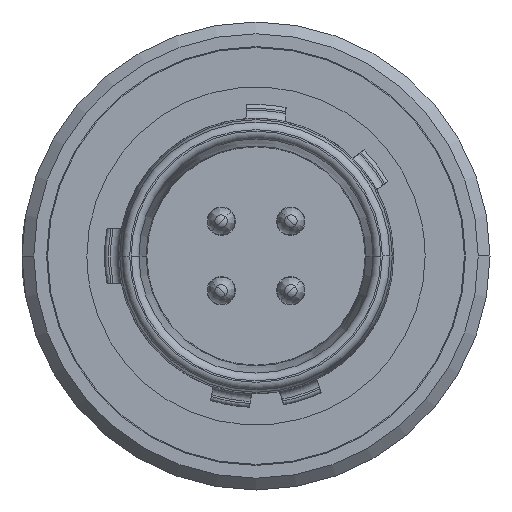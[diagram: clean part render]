
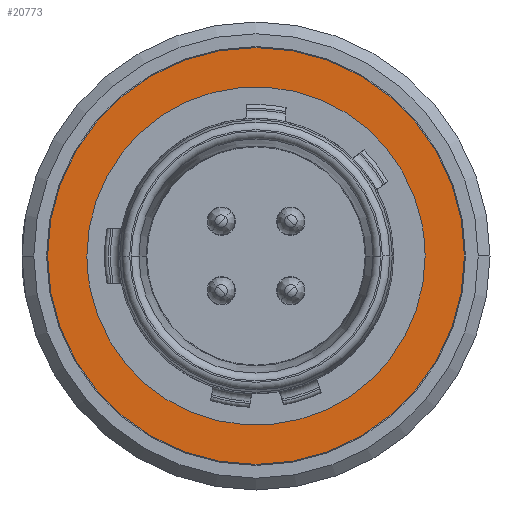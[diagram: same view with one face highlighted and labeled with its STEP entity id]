
A CAD part, left-side view. The second image highlights one B-rep face of the part: STEP entity #20773.
In plain terms, the highlighted planar face has unit normal (-1, 0, 0).
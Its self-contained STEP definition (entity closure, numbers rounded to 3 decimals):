
#6502=CARTESIAN_POINT('',(-7.501,0.,0.));
#6503=DIRECTION('',(1.,0.,0.));
#6504=DIRECTION('',(0.,1.,0.));
#6505=AXIS2_PLACEMENT_3D('',#6502,#6503,#6504);
#6507=CARTESIAN_POINT('',(-7.501,0.,0.));
#6508=DIRECTION('',(1.,0.,0.));
#6509=DIRECTION('',(0.,-1.,0.));
#6510=AXIS2_PLACEMENT_3D('',#6507,#6508,#6509);
#6512=CARTESIAN_POINT('',(-7.501,-4.3,0.));
#6513=CARTESIAN_POINT('',(-7.501,-4.299,-0.305));
#6514=CARTESIAN_POINT('',(-7.5,-4.237,
-0.9));
#6515=CARTESIAN_POINT('',(-7.5,-3.957,
-1.764));
#6516=CARTESIAN_POINT('',(-7.5,-3.502,
-2.548));
#6517=CARTESIAN_POINT('',(-7.5,-2.905,
-3.213));
#6518=CARTESIAN_POINT('',(-7.5,-2.174,
-3.747));
#6519=CARTESIAN_POINT('',(-7.5,-1.345,
-4.117));
#6520=CARTESIAN_POINT('',(-7.5,-0.459,
-4.307));
#6521=CARTESIAN_POINT('',(-7.5,0.446,
-4.308));
#6522=CARTESIAN_POINT('',(-7.5,1.331,
-4.122));
#6523=CARTESIAN_POINT('',(-7.5,2.158,
-3.756));
#6524=CARTESIAN_POINT('',(-7.5,2.891,
-3.225));
#6525=CARTESIAN_POINT('',(-7.5,3.493,
-2.561));
#6526=CARTESIAN_POINT('',(-7.5,3.953,
-1.773));
#6527=CARTESIAN_POINT('',(-7.5,4.236,
-0.904));
#6528=CARTESIAN_POINT('',(-7.501,4.299,-0.306));
#6529=CARTESIAN_POINT('',(-7.501,4.3,0.));
#6531=CARTESIAN_POINT('',(-7.501,4.3,0.));
#6532=CARTESIAN_POINT('',(-7.501,4.299,0.305));
#6533=CARTESIAN_POINT('',(-7.5,4.237,
0.9));
#6534=CARTESIAN_POINT('',(-7.5,3.957,1.764));
#6535=CARTESIAN_POINT('',(-7.5,3.502,2.548));
#6536=CARTESIAN_POINT('',(-7.5,2.905,3.213));
#6537=CARTESIAN_POINT('',(-7.5,2.174,3.747));
#6538=CARTESIAN_POINT('',(-7.5,1.345,4.117));
#6539=CARTESIAN_POINT('',(-7.5,0.459,
4.307));
#6540=CARTESIAN_POINT('',(-7.5,-0.446,
4.308));
#6541=CARTESIAN_POINT('',(-7.5,-1.331,
4.122));
#6542=CARTESIAN_POINT('',(-7.5,-2.158,
3.756));
#6543=CARTESIAN_POINT('',(-7.5,-2.891,
3.225));
#6544=CARTESIAN_POINT('',(-7.5,-3.493,
2.561));
#6545=CARTESIAN_POINT('',(-7.5,-3.953,
1.773));
#6546=CARTESIAN_POINT('',(-7.5,-4.236,
0.904));
#6547=CARTESIAN_POINT('',(-7.501,-4.299,0.306));
#6548=CARTESIAN_POINT('',(-7.501,-4.3,0.));
#9677=CARTESIAN_POINT('',(-7.501,-5.3,0.));
#9678=VERTEX_POINT('',#9677);
#9679=CARTESIAN_POINT('',(-7.501,5.3,0.));
#9680=VERTEX_POINT('',#9679);
#9681=VERTEX_POINT('',#6512);
#9682=VERTEX_POINT('',#6529);
#20758=CARTESIAN_POINT('',(-7.501,0.,0.));
#20759=DIRECTION('',(1.,0.,0.));
#20760=DIRECTION('',(0.,-1.,0.));
#20761=AXIS2_PLACEMENT_3D('',#20758,#20759,#20760);
#20762=PLANE('',#20761);
#20763=ORIENTED_EDGE('',*,*,#20723,.T.);
#20764=ORIENTED_EDGE('',*,*,#20745,.T.);
#20765=EDGE_LOOP('',(#20763,#20764));
#20766=FACE_OUTER_BOUND('',#20765,.F.);
#20768=ORIENTED_EDGE('',*,*,#20767,.F.);
#20770=ORIENTED_EDGE('',*,*,#20769,.F.);
#20771=EDGE_LOOP('',(#20768,#20770));
#20772=FACE_BOUND('',#20771,.F.);
#6506=CIRCLE('',#6505,5.3);
#6511=CIRCLE('',#6510,5.3);
#6530=B_SPLINE_CURVE_WITH_KNOTS('',3,(#6512,#6513,#6514,#6515,#6516,#6517,#6518,
#6519,#6520,#6521,#6522,#6523,#6524,#6525,#6526,#6527,#6528,#6529),
.UNSPECIFIED.,.F.,.F.,(4,1,1,1,1,1,1,1,1,1,1,1,1,1,1,4),(0.,0.067,
0.133,0.2,0.267,0.333,0.4,
0.467,0.533,0.6,0.667,0.733,
0.8,0.867,0.933,1.),.UNSPECIFIED.);
#6549=B_SPLINE_CURVE_WITH_KNOTS('',3,(#6531,#6532,#6533,#6534,#6535,#6536,#6537,
#6538,#6539,#6540,#6541,#6542,#6543,#6544,#6545,#6546,#6547,#6548),
.UNSPECIFIED.,.F.,.F.,(4,1,1,1,1,1,1,1,1,1,1,1,1,1,1,4),(0.,0.067,
0.133,0.2,0.267,0.333,0.4,
0.467,0.533,0.6,0.667,0.733,
0.8,0.867,0.933,1.),.UNSPECIFIED.);
#20723=EDGE_CURVE('',#9680,#9678,#6506,.T.);
#20745=EDGE_CURVE('',#9678,#9680,#6511,.T.);
#20767=EDGE_CURVE('',#9681,#9682,#6530,.T.);
#20769=EDGE_CURVE('',#9682,#9681,#6549,.T.);
#20773=ADVANCED_FACE('',(#20766,#20772),#20762,.F.);
